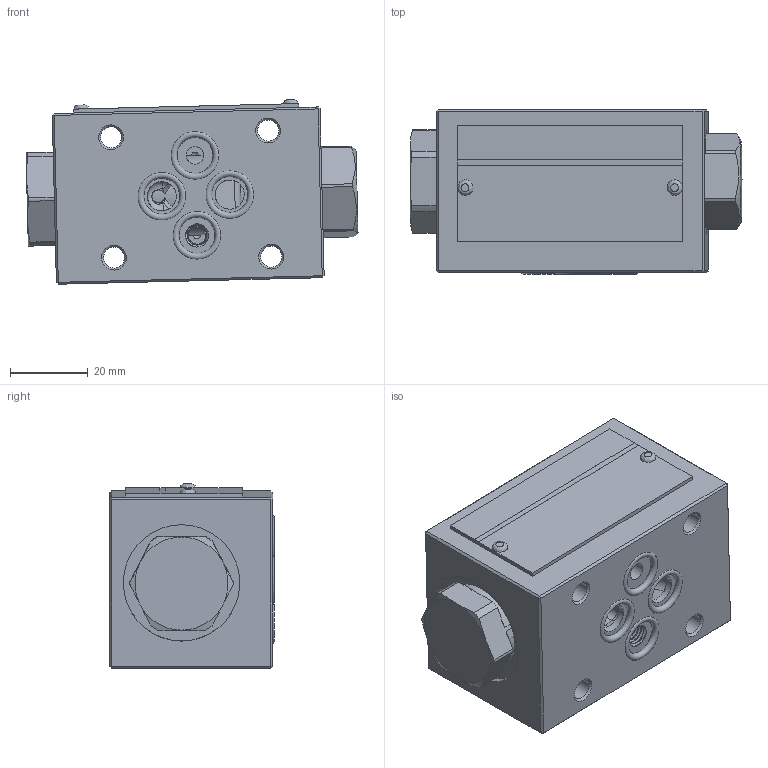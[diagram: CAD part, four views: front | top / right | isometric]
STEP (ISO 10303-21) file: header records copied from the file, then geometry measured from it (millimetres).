
FILE_DESCRIPTION(/* description */ (''),/* implementation_level */ '2;1');
FILE_NAME(/* name */ 'SVSL6PB-6XJ液控单向阀.prt.stp',/* time_stamp */ '2022-03-30T19:20:32+08:00',/* author */ (''),/* organization */ (''),/* preprocessor_version */ 'ST-DEVELOPER v16.7',/* originating_system */ 'SIEMENS PLM Software NX 12.0',/* authorisation */ '');
FILE_SCHEMA (('AUTOMOTIVE_DESIGN { 1 0 10303 214 3 1 1 1 }'));
Length unit declared in the file: millimetre
Products named in the file (1): SVSL6PB-6XJ液控单向阀
Bounding box: 85.53 x 42.38 x 47.51 mm (x, y, z)
Volume: 133443.1 mm3; surface area: 31252 mm2
Topology: 10 solids, 13 shells, 253 faces, 601 edges, 367 vertices
Faces by surface type: plane 93, cylinder 92, cone 29, bspline 20, torus 11, sphere 8
Full cylindrical faces by diameter (mm): 1.8 x4, 1.9 x2, 4.5 x2, 5 x8, 5.4 x4, 7.5 x2, 9 x1, 12.2 x4, 18 x1, 20 x1, 20.5 x4, 26.5 x1, 30 x1
Entity records: 12373 total; most frequent: CARTESIAN_POINT 7094, DIRECTION 993, ORIENTED_EDGE 956, EDGE_CURVE 478, AXIS2_PLACEMENT_3D 405, VERTEX_POINT 334, EDGE_LOOP 319, ADVANCED_FACE 244
